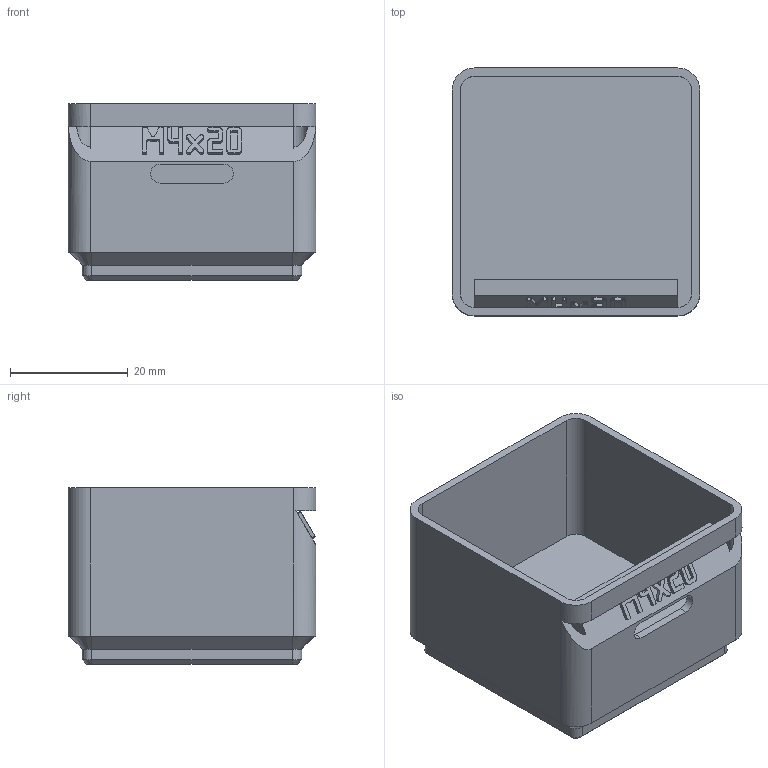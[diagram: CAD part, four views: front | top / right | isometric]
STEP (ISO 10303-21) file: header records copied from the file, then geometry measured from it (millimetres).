
FILE_DESCRIPTION(('Open CASCADE Model'),'2;1');
FILE_NAME('Open CASCADE Shape Model','2026-11-03T17:13:56',('Author'),( 'Open CASCADE'),'Open CASCADE STEP processor 8.0','build123d', 'Unknown');
FILE_SCHEMA(('AUTOMOTIVE_DESIGN { 1 0 10303 214 1 1 1 1 }'));
Length unit declared in the file: millimetre
Products named in the file (1): COMPOUND
Bounding box: 42 x 42 x 30 mm (x, y, z)
Volume: 14812.9 mm3; surface area: 12096.3 mm2
Topology: 1 solids, 1 shells, 499 faces, 1455 edges, 964 vertices
Faces by surface type: plane 477, cylinder 14, cone 8
Entity records: 34172 total; most frequent: CARTESIAN_POINT 6887, DIRECTION 4419, LINE 3303, VECTOR 3303, ORIENTED_EDGE 2910, PCURVE 2910, DEFINITIONAL_REPRESENTATION 2910, EDGE_CURVE 1455
